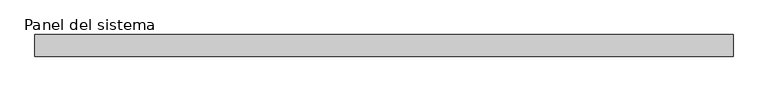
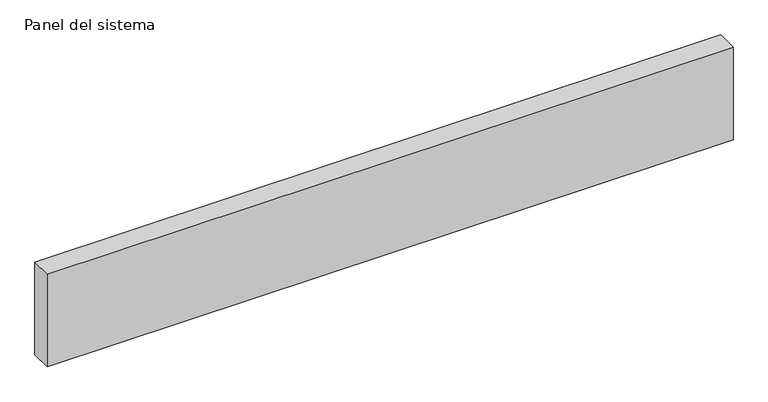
"""IFC4 building model written with IfcOpenShell, lengths in millimetres: plate geometry, Panel del sistema : HIANSA - CHAPA PERFILADA CUBIERTA - BANDEJA 130.600 Hor."""

from ifc_helpers import new_model, si_unit, origin, origin_with_axes, place, context, project, spatial, polyline, outline, extrude, source, transform, mapped, element, save


def panel_del_sistema_e171bdba(model_context):
    return source(origin(), model_context, "Body", "SweptSolid", [
        extrude(outline(polyline([(2100.0, -130.0), (-2100.0, -130.0), (-2100.0, 0.0), (2100.0, 0.0), (2100.0, -130.0)])), origin_with_axes(), (0.0, 0.0, 1.0), 600.0),
    ])


if __name__ == "__main__":
    model = new_model("IFC4")
    model_context = context("Model", 3, world=origin())
    ifc_project = project(units=[si_unit("LENGTHUNIT", "METRE", prefix="MILLI")], contexts=[model_context])
    site = spatial("IfcSite", under=ifc_project)
    building = spatial("IfcBuilding", under=site)
    placement = place(None, origin())
    panel_del_sistema_shape = panel_del_sistema_e171bdba(model_context)
    element("IfcPlate", 1, ObjectType="Panel del sistema : HIANSA - CHAPA PERFILADA CUBIERTA - BANDEJA 130.600 Hor", at=placement, inside=building, context=model_context, shape_type="MappedRepresentation", body=[
        mapped(panel_del_sistema_shape, transform((0.0, 0.0, 0.0), x_axis=(1.0, 0.0, 0.0), y_axis=(0.0, 1.0, 0.0), z_axis=(0.0, 0.0, 1.0))),
    ])
    save(model, "model.ifc")
